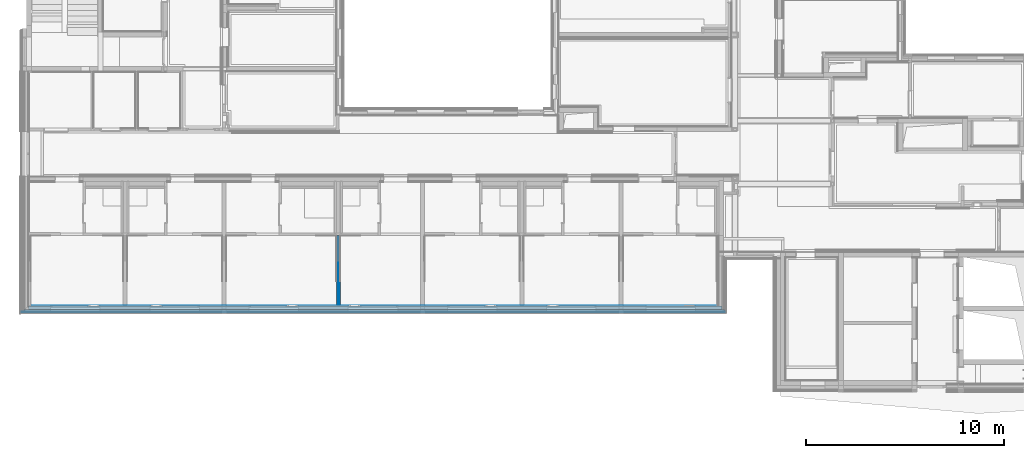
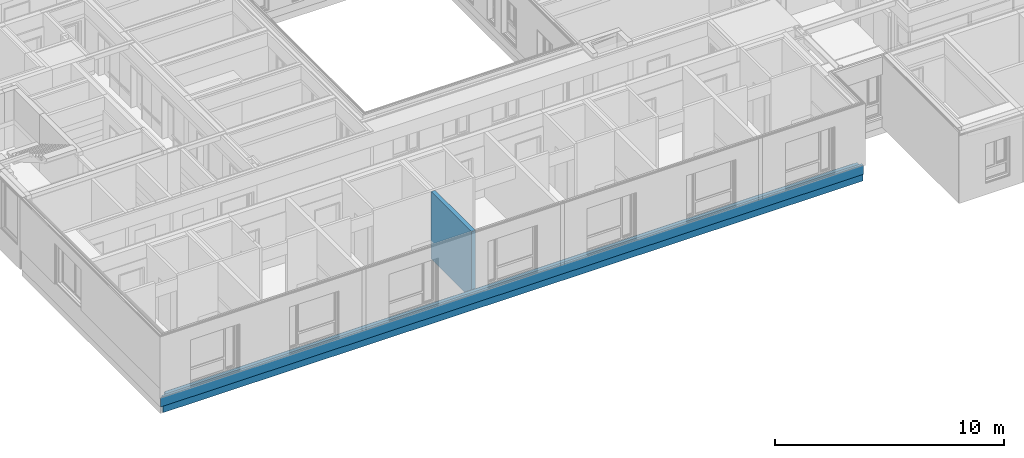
# One storey, part 11 of 207: 5 walls.
"""IFC4 building model written with IfcOpenShell, lengths in metres."""

from ifc_helpers import new_model, entity, si_unit, converted_unit, derived_unit, frame, frame_2d, origin, origin_with_axes, place, context, subcontext, project, spatial, rectangle, extrude, material, element, save


model = new_model("IFC4")

# Units and contexts
model_context = context("Model", 3, precision=1e-05, world=origin())
body_context = subcontext(model_context, "Body", "Model", "MODEL_VIEW")
ifc_project = project(units=[si_unit("LENGTHUNIT", "METRE"), si_unit("AREAUNIT", "SQUARE_METRE"), si_unit("VOLUMEUNIT", "CUBIC_METRE"), si_unit("MASSUNIT", "GRAM", prefix="KILO"), converted_unit("PLANEANGLEUNIT", "DEGREE", entity("IfcPlaneAngleMeasure", 0.0174532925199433), si_unit("PLANEANGLEUNIT", "RADIAN"), dimensions=[0, 0, 0, 0, 0, 0, 0]), derived_unit("THERMALTRANSMITTANCEUNIT", [(si_unit("POWERUNIT", "WATT"), 1), (si_unit("THERMODYNAMICTEMPERATUREUNIT", "KELVIN"), -1), (si_unit("LENGTHUNIT", "METRE"), -2)]), derived_unit("VOLUMETRICFLOWRATEUNIT", [(si_unit("LENGTHUNIT", "METRE"), 3), (converted_unit("TIMEUNIT", "hour", entity("IfcTimeMeasure", 3600.0), si_unit("TIMEUNIT", "SECOND"), dimensions=[0, 0, 1, 0, 0, 0, 0]), -1), (si_unit("LENGTHUNIT", "METRE"), -1)])], contexts=[model_context])

# Site, building, storey
site_placement = place(None, origin())
site = spatial("IfcSite", under=ifc_project, at=site_placement, Name="Psychiatrie Neubau Wunstorf", CompositionType="ELEMENT")
building_placement = place(site_placement, origin())
building = spatial("IfcBuilding", under=site, at=building_placement, Name="Neubau H2 Stationsgebäude", CompositionType="ELEMENT")
storey_placement = place(building_placement, frame((0.0, 0.0, -0.2)))
storey = spatial("IfcBuildingStorey", under=building, at=storey_placement, Name="H2 Ebene 0", CompositionType="ELEMENT", Elevation=-0.2)

# Walls
ifc_material_1 = material(Name="WA-LB")
wall_1_placement = place(storey_placement, frame((34.91, -2.16399999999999, 0.0), z_axis=(0.0, 0.0, 1.0), x_axis=(-1.0, 2.35627171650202e-16, 0.0)))
element("IfcWall", 1, at=wall_1_placement, inside=storey, material=ifc_material_1, context=body_context, shape_type="SweptSolid", body=[
    extrude(rectangle(XDim=34.739, YDim=0.021, at=frame_2d((17.3695, 0.0105), x_axis=(1.0, 0.0))), origin_with_axes(), (0.0, 0.0, 1.0), 0.5),
])
ifc_material_2 = material(Name="WA-STB")
wall_2_placement = place(storey_placement, frame((35.085, -2.18499999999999, 0.0), z_axis=(0.0, 0.0, 1.0), x_axis=(-1.0, 2.34204644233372e-16, 0.0)))
element("IfcWall", 2, at=wall_2_placement, inside=storey, material=ifc_material_2, context=body_context, shape_type="SweptSolid", body=[
    extrude(rectangle(XDim=34.95, YDim=0.174999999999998, at=frame_2d((17.475, 0.0874999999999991), x_axis=(1.0, 0.0))), origin_with_axes(), (0.0, 0.0, 1.0), 0.5),
])
ifc_material_3 = material(Name="WA-DE")
wall_3_placement = place(storey_placement, frame((35.205, -2.35999999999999, -0.36), z_axis=(0.0, 0.0, 1.0), x_axis=(-1.0, 2.31948209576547e-16, 0.0)))
element("IfcWall", 3, at=wall_3_placement, inside=storey, material=ifc_material_3, context=body_context, shape_type="SweptSolid", body=[
    extrude(rectangle(XDim=35.29, YDim=0.12, at=frame_2d((17.645, 0.06), x_axis=(1.0, 0.0))), origin_with_axes(), (0.0, 0.0, 1.0), 0.86),
])
ifc_material_4 = material(Name="WA-LB")
wall_4_placement = place(storey_placement, frame((35.22, -2.47999999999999, 0.0), z_axis=(0.0, 0.0, 1.0), x_axis=(-1.0, 2.31064285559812e-16, 0.0)))
element("IfcWall", 4, at=wall_4_placement, inside=storey, material=ifc_material_4, context=body_context, shape_type="SweptSolid", body=[
    extrude(rectangle(XDim=35.425, YDim=0.0150000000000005, at=frame_2d((17.7125, 0.00750000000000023), x_axis=(1.0, 0.0))), origin_with_axes(), (0.0, 0.0, 1.0), 0.5),
])
ifc_material_5 = material(Name="WI-LB")
wall_5_placement = place(storey_placement, frame((15.65, 1.35874963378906, 0.0), z_axis=(0.0, 0.0, 1.0), x_axis=(0.0, -1.0, 0.0)))
element("IfcWall", 5, at=wall_5_placement, inside=storey, material=ifc_material_5, context=body_context, shape_type="SweptSolid", body=[
    extrude(rectangle(XDim=3.52274963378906, YDim=0.2, at=frame_2d((1.76137481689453, 0.1), x_axis=(1.0, 0.0))), origin_with_axes(), (0.0, 0.0, 1.0), 3.6),
])

save(model, "model.ifc")
